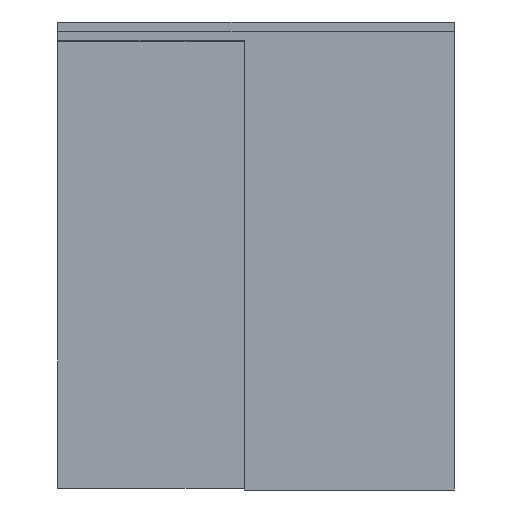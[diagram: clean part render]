
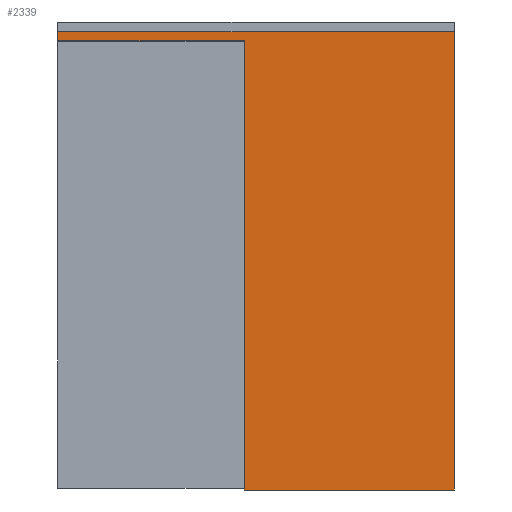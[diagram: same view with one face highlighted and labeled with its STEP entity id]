
A CAD part, front view. The second image highlights one B-rep face of the part: STEP entity #2339.
In plain terms, the highlighted planar face has unit normal (0, -1, 0).
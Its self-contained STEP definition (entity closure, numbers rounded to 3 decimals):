
#2339=ADVANCED_FACE('',(#4912),#4913,.F.);
#4912=FACE_OUTER_BOUND('',#7699,.T.);
#4913=PLANE('',#7700);
#7699=EDGE_LOOP('',(#14064,#14065,#14066,#14067,#14068,#14069));
#7700=AXIS2_PLACEMENT_3D('',#14070,#14071,#14072);
#14064=ORIENTED_EDGE('',*,*,#18857,.T.);
#14065=ORIENTED_EDGE('',*,*,#18847,.F.);
#14066=ORIENTED_EDGE('',*,*,#18851,.F.);
#14067=ORIENTED_EDGE('',*,*,#18855,.T.);
#14068=ORIENTED_EDGE('',*,*,#18858,.F.);
#14069=ORIENTED_EDGE('',*,*,#18859,.F.);
#14070=CARTESIAN_POINT('',(0.0,-46.5,2333.0));
#14071=DIRECTION('',(0.0,1.0,-0.0));
#14072=DIRECTION('',(0.0,0.0,1.0));
#18847=EDGE_CURVE('',#23036,#23031,#23038,.T.);
#18851=EDGE_CURVE('',#23042,#23036,#23044,.T.);
#18855=EDGE_CURVE('',#23042,#23048,#23050,.T.);
#18857=EDGE_CURVE('',#23052,#23031,#23053,.T.);
#18858=EDGE_CURVE('',#23054,#23048,#23055,.T.);
#18859=EDGE_CURVE('',#23052,#23054,#23056,.T.);
#23031=VERTEX_POINT('',#28851);
#23036=VERTEX_POINT('',#28858);
#23038=LINE('',#28861,#28862);
#23042=VERTEX_POINT('',#28867);
#23044=LINE('',#28870,#28871);
#23048=VERTEX_POINT('',#28876);
#23050=LINE('',#28879,#28880);
#23052=VERTEX_POINT('',#28882);
#23053=LINE('',#28883,#28884);
#23054=VERTEX_POINT('',#28885);
#23055=LINE('',#28886,#28887);
#23056=LINE('',#28888,#28889);
#28851=CARTESIAN_POINT('',(965.0,-46.5,2322.0));
#28858=CARTESIAN_POINT('',(965.0,-46.5,0.0));
#28861=CARTESIAN_POINT('',(965.0,-46.5,7.0));
#28862=VECTOR('',#33579,1.0);
#28867=CARTESIAN_POINT('',(2050.0,-46.5,0.0));
#28870=CARTESIAN_POINT('',(1327.5,-46.5,0.0));
#28871=VECTOR('',#33582,1.0);
#28876=CARTESIAN_POINT('',(2050.0,-46.5,2368.0));
#28879=CARTESIAN_POINT('',(2050.0,-46.5,7.0));
#28880=VECTOR('',#33585,1.0);
#28882=CARTESIAN_POINT('',(0.0,-46.5,2322.0));
#28883=CARTESIAN_POINT('',(0.0,-46.5,2322.0));
#28884=VECTOR('',#33586,1.0);
#28885=CARTESIAN_POINT('',(0.0,-46.5,2368.0));
#28886=CARTESIAN_POINT('',(1270.0,-46.5,2368.0));
#28887=VECTOR('',#33587,1.0);
#28888=CARTESIAN_POINT('',(0.0,-46.5,2301.0));
#28889=VECTOR('',#33588,1.0);
#33579=DIRECTION('',(0.0,0.0,1.0));
#33582=DIRECTION('',(-1.0,0.0,0.0));
#33585=DIRECTION('',(0.0,0.0,1.0));
#33586=DIRECTION('',(1.0,0.0,0.0));
#33587=DIRECTION('',(1.0,0.0,0.0));
#33588=DIRECTION('',(0.0,0.0,1.0));
